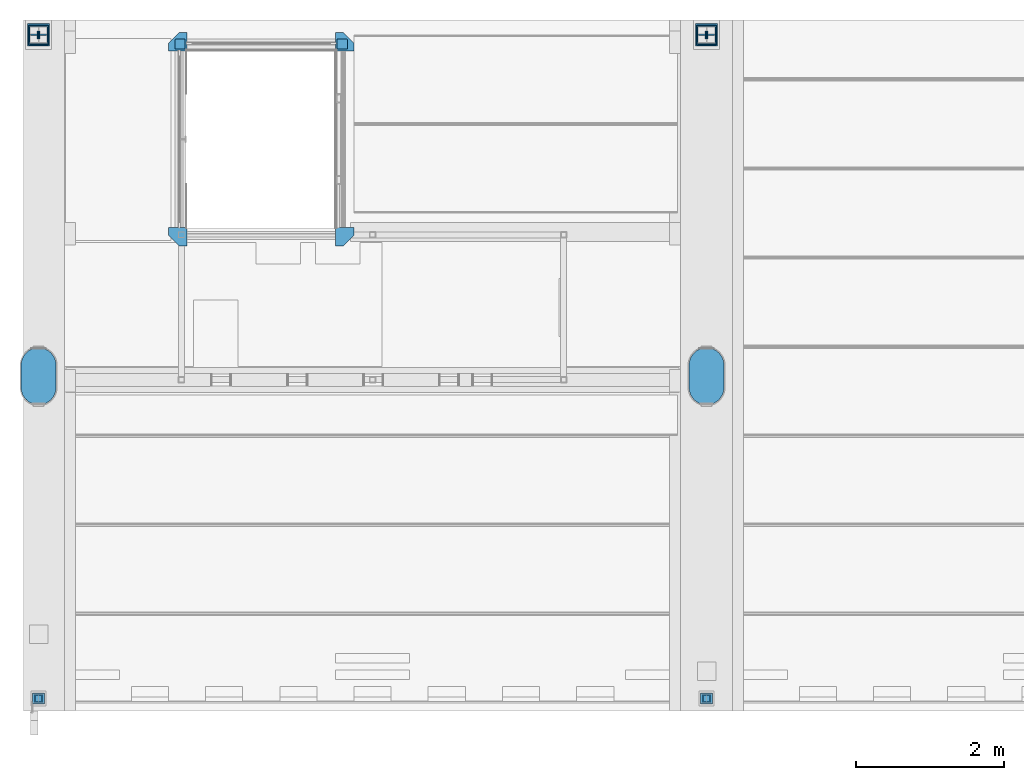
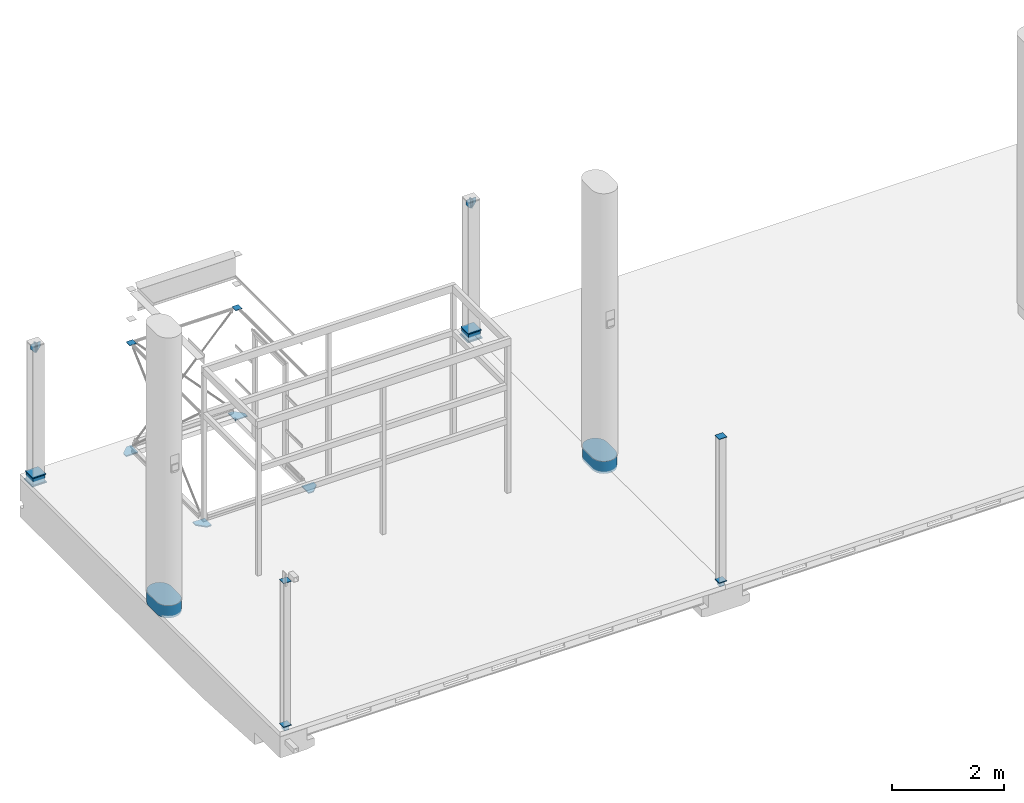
# One storey, part 4 of 15: 24 columns.
"""IFC2X3 building model written with IfcOpenShell, lengths in millimetres."""

from ifc_helpers import new_model, entity, si_unit, converted_unit, derived_unit, direction, frame, origin_with_axes, place, context, subcontext, project, spatial, faceted_brep, material, type_object, element, save


model = new_model("IFC2X3")

# Units and contexts
model_context = context("Model", 3, precision=0.01, world=frame((0.0, 4.29681676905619e-09, 0.0)), true_north=direction((4.01073788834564e-13, 1.0)))
plan_context = context("Plan", 3, precision=0.01, world=frame((0.0, 4.29681676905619e-09, 0.0)), true_north=direction((4.01073788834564e-13, 1.0)))
body_context = subcontext(model_context, "Body", "Model", "MODEL_VIEW")
ifc_project = project(units=[converted_unit("PLANEANGLEUNIT", "DEGREE", entity("IfcPositiveLengthMeasure", 0.0174532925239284), si_unit("PLANEANGLEUNIT", "RADIAN"), dimensions=[0, 0, 0, 0, 0, 0, 0]), si_unit("AREAUNIT", "SQUARE_METRE"), si_unit("LENGTHUNIT", "METRE", prefix="MILLI"), si_unit("MASSUNIT", "GRAM", prefix="KILO"), si_unit("POWERUNIT", "WATT"), si_unit("PRESSUREUNIT", "PASCAL", prefix="KILO"), si_unit("FORCEUNIT", "NEWTON", prefix="KILO"), si_unit("ELECTRICVOLTAGEUNIT", "VOLT"), si_unit("ELECTRICCURRENTUNIT", "AMPERE"), si_unit("THERMODYNAMICTEMPERATUREUNIT", "DEGREE_CELSIUS"), si_unit("TIMEUNIT", "SECOND"), si_unit("VOLUMEUNIT", "CUBIC_METRE"), derived_unit("LINEARVELOCITYUNIT", [(si_unit("LENGTHUNIT", "METRE"), 1), (si_unit("TIMEUNIT", "SECOND"), -1)]), derived_unit("VOLUMETRICFLOWRATEUNIT", [(si_unit("VOLUMEUNIT", "CUBIC_METRE"), 1), (si_unit("TIMEUNIT", "SECOND"), -1)]), derived_unit("THERMALTRANSMITTANCEUNIT", [(si_unit("POWERUNIT", "WATT"), 1), (si_unit("THERMODYNAMICTEMPERATUREUNIT", "KELVIN"), -1), (si_unit("AREAUNIT", "SQUARE_METRE"), -1)]), derived_unit("SOUNDPRESSUREUNIT", [(si_unit("PRESSUREUNIT", "PASCAL"), 1)])], contexts=[model_context, plan_context])

# Site, building, storey
site_placement = place(None, frame((0.0, -4.29681676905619e-09, 0.0), z_axis=(0.0, 0.0, 1.0), x_axis=(1.0, 0.0, 0.0)))
site = spatial("IfcSite", under=ifc_project, at=site_placement, Name="Gardermoen", CompositionType="ELEMENT")
building_placement = place(site_placement, frame((0.0, 4.29681676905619e-09, 0.0), z_axis=(0.0, 0.0, 1.0), x_axis=(1.0, 0.0, 0.0)))
building = spatial("IfcBuilding", under=site, at=building_placement, Name="TG", CompositionType="ELEMENT")
storey_placement = place(building_placement, origin_with_axes())
storey = spatial("IfcBuildingStorey", under=building, at=storey_placement, Name="F", CompositionType="ELEMENT", Elevation=0.0)

# Columns
ifc_material_1 = material(Name="STEEL/S355")
column_type_1 = type_object("IfcColumnType", Name="RHS100*5", PredefinedType="NOTDEFINED")
for number, where, z_axis, x_axis in (
    (1, (331000.0, 458358.0, 210030.0), (0.0, -1.0, 0.0), (0.0, 0.0, 1.0)),
    (2, (322000.0, 458358.0, 210030.0), (0.0, -1.0, 0.0), (0.0, 0.0, 1.0)),
):
    element("IfcColumn", number, at=place(storey_placement, frame(where, z_axis=z_axis, x_axis=x_axis)), inside=storey, type_object=column_type_1, material=ifc_material_1, Name="STÅLSØYLE", ObjectType="RHS100*5", context=body_context, shape_type="Brep", body=[
        faceted_brep([(0.0, 45.0, -45.0), (0.0, -45.0, -45.0), (100.0, -45.0, -45.0), (100.0, 45.0, -45.0), (0.0, -45.0, 45.0), (100.0, -45.0, 45.0), (0.0, 45.0, 45.0), (100.0, 45.0, 45.0), (0.0, 50.0, -50.0), (0.0, 50.0, 50.0), (100.0, 50.0, 50.0), (100.0, 50.0, -50.0), (0.0, -50.0, 50.0), (100.0, -50.0, 50.0), (0.0, -50.0, -50.0), (100.0, -50.0, -50.0)], [[[0, 1, 2, 3]], [[1, 4, 5, 2]], [[4, 6, 7, 5]], [[6, 0, 3, 7]], [[8, 9, 10, 11]], [[9, 12, 13, 10]], [[12, 14, 15, 13]], [[14, 8, 11, 15]], [[13, 15, 11, 10], [5, 7, 3, 2]], [[14, 12, 9, 8], [6, 4, 1, 0]]]),
    ])
column_type_2 = type_object("IfcColumnType", Name="PL25*250", PredefinedType="NOTDEFINED")
for number, where, z_axis, x_axis in (
    (3, (326001.862471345, 464454.830464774, 210082.50031468), (0.0, 1.0, 0.0), (0.999999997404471, 0.0, -7.20490000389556e-05)),
    (4, (323998.017060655, 464454.830464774, 210082.50031468), (0.0, 1.0, 0.0), (-0.999999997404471, 0.0, -7.20490000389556e-05)),
    (5, (326001.862471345, 467334.829535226, 210082.50031468), (0.0, -1.0, 0.0), (0.999999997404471, 0.0, -7.20490000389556e-05)),
    (6, (323998.017060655, 467334.829535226, 210082.50031468), (0.0, -1.0, 0.0), (-0.999999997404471, 0.0, -7.20490000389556e-05)),
):
    element("IfcColumn", number, at=place(storey_placement, frame(where, z_axis=z_axis, x_axis=x_axis)), inside=storey, type_object=column_type_2, material=ifc_material_1, Name="STÅLSØYLE", ObjectType="PL25*250", context=body_context, shape_type="Brep", body=[
        faceted_brep([(5.82076609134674e-11, -12.5000000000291, 1.74622982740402e-10), (3.68105247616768e-07, -12.5000000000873, 250.0), (3.68687324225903e-07, 12.5000000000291, 250.0), (5.82076609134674e-11, 12.4999999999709, -3.49245965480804e-10), (249.999969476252, -12.4999999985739, 250.0), (249.999969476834, 12.5000000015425, 250.0), (249.999981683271, -12.4999999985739, 150.0), (249.999981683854, 12.5000000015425, 150.0), (99.9999999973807, -12.4999999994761, 0.0), (99.9999999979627, 12.5000000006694, 0.0)], [[[0, 1, 2, 3]], [[1, 4, 5, 2]], [[4, 6, 7, 5]], [[6, 8, 9, 7]], [[8, 0, 3, 9]], [[5, 7, 9, 3, 2]], [[8, 6, 4, 1, 0]]]),
    ])
column_type_3 = type_object("IfcColumnType", Name="PL10*138", PredefinedType="NOTDEFINED")
for number, where, z_axis, x_axis in (
    (7, (326024.017791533, 467244.659923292, 212455.009196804), (0.0, -1.0, 0.0), (0.99999999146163, 0.0, -0.000130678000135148)),
    (8, (323975.861740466, 467244.659923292, 212455.009196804), (0.0, -1.0, 0.0), (-0.99999999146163, 0.0, -0.000130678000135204)),
):
    element("IfcColumn", number, at=place(storey_placement, frame(where, z_axis=z_axis, x_axis=x_axis)), inside=storey, type_object=column_type_3, material=ifc_material_1, Name="STÅLSØYLE", ObjectType="PL10*138", context=body_context, shape_type="Brep", body=[
        faceted_brep([(5.82076609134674e-11, -5.0, 2.91038304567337e-11), (3.68338078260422e-07, -5.00000000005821, 137.83137512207), (3.68338078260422e-07, 5.00000000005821, 137.83137512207), (5.82076609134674e-11, 5.0, 2.91038304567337e-11), (137.836563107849, -5.00000000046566, 137.83137512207), (137.836563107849, 4.99999999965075, 137.83137512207), (137.836590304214, -5.00000000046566, 15.0000033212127), (137.836590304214, 4.99999999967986, 15.0000033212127), (137.460509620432, -5.00000000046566, 11.6621887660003), (137.460509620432, 4.99999999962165, 11.6621887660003), (136.351124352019, -5.00000000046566, 8.4917460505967), (136.351124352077, 4.99999999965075, 8.4917460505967), (134.564063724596, -5.00000000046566, 5.64765445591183), (134.564063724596, 4.99999999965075, 5.64765445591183), (132.188938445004, -5.00000000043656, 3.27252865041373), (132.188938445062, 4.99999999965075, 3.27252865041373), (129.344847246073, -5.00000000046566, 1.48546739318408), (129.344847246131, 4.99999999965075, 1.48546739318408), (126.174404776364, -5.00000000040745, 0.376081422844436), (126.174404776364, 4.99999999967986, 0.376081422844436), (122.836590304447, -5.00000000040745, 0.0), (122.836590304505, 4.99999999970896, 0.0)], [[[0, 1, 2, 3]], [[1, 4, 5, 2]], [[4, 6, 7, 5]], [[6, 8, 9, 7]], [[8, 10, 11, 9]], [[10, 12, 13, 11]], [[12, 14, 15, 13]], [[14, 16, 17, 15]], [[16, 18, 19, 17]], [[18, 20, 21, 19]], [[20, 0, 3, 21]], [[5, 7, 9, 11, 13, 15, 17, 19, 21, 3, 2]], [[20, 18, 16, 14, 12, 10, 8, 6, 4, 1, 0]]]),
    ])
column_type_4 = type_object("IfcColumnType", Name="PL270*20", PredefinedType="NOTDEFINED")
for number, where, z_axis, x_axis in (
    (9, (322000.000703, 467165.004375, 210210.0), (1.0, 0.0, 0.0), (0.0, 1.0, 0.0)),
    (10, (330999.999765, 467165.004375, 210210.0), (-1.0, 0.0, 0.0), (0.0, 1.0, 0.0)),
):
    element("IfcColumn", number, at=place(storey_placement, frame(where, z_axis=z_axis, x_axis=x_axis)), inside=storey, type_object=column_type_4, material=ifc_material_1, Name="STÅLSØYLE", ObjectType="PL270*20", context=body_context, shape_type="Brep", body=[
        faceted_brep([(0.0, 10.0, -135.0), (0.0, 10.0, 135.0), (270.0, 10.0, 135.0), (270.0, 10.0, -135.0), (0.0, -10.0, 135.0), (270.0, -10.0, 135.0), (0.0, -10.0, -135.0), (270.0, -10.0, -135.0)], [[[0, 1, 2, 3]], [[1, 4, 5, 2]], [[4, 6, 7, 5]], [[6, 0, 3, 7]], [[5, 7, 3, 2]], [[6, 4, 1, 0]]]),
    ])
column_type_5 = type_object("IfcColumnType", Name="RHS250*250*10", PredefinedType="NOTDEFINED")
for number, where, z_axis, x_axis in (
    (11, (322000.000703, 467300.004375, 210050.0), (0.0, -1.0, 0.0), (0.0, 0.0, 1.0)),
    (12, (330999.999765, 467300.004375, 210050.0), (0.0, -1.0, 0.0), (0.0, 0.0, 1.0)),
):
    element("IfcColumn", number, at=place(storey_placement, frame(where, z_axis=z_axis, x_axis=x_axis)), inside=storey, type_object=column_type_5, material=ifc_material_1, Name="STÅLSØYLE", ObjectType="RHS250*250*10", context=body_context, shape_type="Brep", body=[
        faceted_brep([(0.0, 115.0, -115.0), (0.0, -115.0, -115.0), (150.0, -115.0, -115.0), (150.0, 115.0, -115.0), (0.0, -115.0, 115.0), (150.0, -115.0, 115.0), (0.0, 115.0, 115.0), (150.0, 115.0, 115.0), (0.0, 125.0, -125.0), (0.0, 125.0, 125.0), (150.0, 125.0, 125.0), (150.0, 125.0, -125.0), (0.0, -125.0, 125.0), (150.0, -125.0, 125.0), (0.0, -125.0, -125.0), (150.0, -125.0, -125.0)], [[[0, 1, 2, 3]], [[1, 4, 5, 2]], [[4, 6, 7, 5]], [[6, 0, 3, 7]], [[8, 9, 10, 11]], [[9, 12, 13, 10]], [[12, 14, 15, 13]], [[14, 8, 11, 15]], [[13, 15, 11, 10], [5, 7, 3, 2]], [[14, 12, 9, 8], [6, 4, 1, 0]]]),
    ])
column_type_6 = type_object("IfcColumnType", Name="T100", PredefinedType="NOTDEFINED")
for number, where, z_axis, x_axis in (
    (13, (322053.750703, 467300.004375, 212847.0), (-1.0, 0.0, 0.0), (0.0, 0.0, 1.0)),
    (14, (321946.250703, 467300.004375, 212847.0), (1.0, 0.0, 0.0), (0.0, 0.0, 1.0)),
    (15, (330946.249765, 467300.004375, 212847.0), (1.0, 0.0, 0.0), (0.0, 0.0, 1.0)),
    (16, (331053.749765, 467300.004375, 212847.0), (-1.0, 0.0, 0.0), (0.0, 0.0, 1.0)),
):
    element("IfcColumn", number, at=place(storey_placement, frame(where, z_axis=z_axis, x_axis=x_axis)), inside=storey, type_object=column_type_6, material=ifc_material_1, Name="STÅLSØYLE", ObjectType="T100", context=body_context, shape_type="Brep", body=[
        faceted_brep([(100.0, -5.5, -50.0), (0.0, -5.5, 25.0), (0.0, 5.5, 25.0), (100.0, 5.5, -50.0), (200.0, -50.0, 39.0), (200.0, -50.0, 50.0), (100.0, -50.0, 50.0), (100.0, -50.0, 39.0), (200.0, 50.0, 50.0), (200.0, 50.0, 39.0), (100.0, 50.0, 39.0), (100.0, 50.0, 50.0), (200.0, 5.5, 39.0), (0.0, 5.5, 39.0), (0.0, 25.0, 39.0), (0.0, 25.0, 50.0), (0.0, -25.0, 50.0), (0.0, -25.0, 39.0), (0.0, -5.5, 39.0), (200.0, -5.5, 39.0), (200.0, -5.5, -50.0), (200.0, 5.5, -50.0)], [[[0, 1, 2, 3]], [[4, 5, 6, 7]], [[8, 9, 10, 11]], [[9, 12, 13, 14, 10]], [[11, 10, 14, 15]], [[5, 8, 11, 15, 16, 6]], [[6, 16, 17, 7]], [[18, 19, 4, 7, 17]], [[9, 8, 5, 4, 19, 20, 21, 12]], [[21, 20, 0, 3]], [[13, 12, 21, 3, 2]], [[18, 17, 16, 15, 14, 13, 2, 1]], [[20, 19, 18, 1, 0]]]),
    ])
column_type_7 = type_object("IfcColumnType", Name="PL300*20", PredefinedType="NOTDEFINED")
for number, where, z_axis, x_axis in (
    (17, (330999.999765, 467150.004375, 210040.0), (-1.0, 0.0, 0.0), (0.0, 1.0, 0.0)),
    (18, (322000.000703, 467150.004375, 210040.0), (-1.0, 0.0, 0.0), (0.0, 1.0, 0.0)),
):
    element("IfcColumn", number, at=place(storey_placement, frame(where, z_axis=z_axis, x_axis=x_axis)), inside=storey, type_object=column_type_7, material=ifc_material_1, Name="STÅLSØYLE", ObjectType="PL300*20", context=body_context, shape_type="Brep", body=[
        faceted_brep([(0.0, 10.0, -150.0), (0.0, 10.0, 150.0), (300.0, 10.0, 150.0), (300.0, 10.0, -150.0), (0.0, -10.0, 150.0), (300.0, -10.0, 150.0), (0.0, -10.0, -150.0), (300.0, -10.0, -150.0)], [[[0, 1, 2, 3]], [[1, 4, 5, 2]], [[4, 6, 7, 5]], [[6, 0, 3, 7]], [[5, 7, 3, 2]], [[6, 4, 1, 0]]]),
    ])
ifc_material_2 = material(Name="CONCRETE/C45/55")
column_type_8 = type_object("IfcColumnType", Name="AAJOVAL470*770", PredefinedType="NOTDEFINED")
column_1_placement = place(storey_placement, frame((330999.999766, 462700.004375, 210080.0), z_axis=(0.0, -1.0, 0.0), x_axis=(0.0, 0.0, 1.0)))
element("IfcColumn", 19, at=column_1_placement, inside=storey, type_object=column_type_8, material=ifc_material_2, Name="PREFABSØYLE", ObjectType="AAJOVAL470*770", context=body_context, shape_type="Brep", body=[
    faceted_brep([(0.0, 235.0, 150.0), (0.0, 234.153409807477, 169.929392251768), (270.0, 234.153409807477, 169.929392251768), (270.0, 235.0, 150.0), (0.0, 231.619738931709, 189.715192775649), (270.0, 231.619738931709, 189.715192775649), (0.0, 227.417242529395, 209.2148444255), (270.0, 227.417242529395, 209.2148444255), (0.0, 221.576199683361, 228.287851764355), (270.0, 221.576199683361, 228.287851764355), (0.0, 214.138695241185, 246.796793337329), (270.0, 214.138695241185, 246.796793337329), (0.0, 205.158316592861, 264.608311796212), (270.0, 205.158316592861, 264.608311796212), (0.0, 194.699767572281, 281.594074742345), (270.0, 194.699767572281, 281.594074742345), (0.0, 182.83840226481, 297.631699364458), (270.0, 182.83840226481, 297.631699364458), (0.0, 169.659682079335, 312.6056342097), (270.0, 169.659682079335, 312.6056342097), (0.0, 155.25855999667, 326.407991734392), (270.0, 155.25855999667, 326.407991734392), (0.0, 139.738796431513, 338.939325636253), (270.0, 139.738796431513, 338.939325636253), (0.0, 123.212211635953, 350.10934736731), (270.0, 123.212211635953, 350.10934736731), (0.0, 105.797880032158, 359.837576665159), (270.0, 105.797880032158, 359.837576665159), (0.0, 87.6212722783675, 368.053921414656), (270.0, 87.6212722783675, 368.053921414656), (0.0, 68.8133512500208, 374.699182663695), (270.0, 68.8133512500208, 374.699182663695), (0.0, 49.5096284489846, 379.725481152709), (270.0, 49.5096284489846, 379.725481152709), (0.0, 29.8491876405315, 383.096602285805), (270.0, 29.8491876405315, 383.096602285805), (0.0, 9.9736827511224, 384.78825705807), (270.0, 9.9736827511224, 384.78825705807), (0.0, -9.97368275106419, 384.78825705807), (270.0, -9.97368275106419, 384.78825705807), (0.0, -29.8491876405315, 383.096602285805), (270.0, -29.8491876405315, 383.096602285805), (0.0, -49.5096284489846, 379.725481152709), (270.0, -49.5096284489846, 379.725481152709), (0.0, -68.8133512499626, 374.699182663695), (270.0, -68.8133512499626, 374.699182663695), (0.0, -87.6212722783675, 368.053921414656), (270.0, -87.6212722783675, 368.053921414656), (0.0, -105.797880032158, 359.837576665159), (270.0, -105.797880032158, 359.837576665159), (0.0, -123.212211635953, 350.10934736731), (270.0, -123.212211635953, 350.10934736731), (0.0, -139.738796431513, 338.939325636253), (270.0, -139.738796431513, 338.939325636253), (0.0, -155.25855999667, 326.407991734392), (270.0, -155.25855999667, 326.407991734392), (0.0, -169.659682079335, 312.6056342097), (270.0, -169.659682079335, 312.6056342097), (0.0, -182.83840226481, 297.631699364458), (270.0, -182.83840226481, 297.631699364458), (0.0, -194.699767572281, 281.594074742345), (270.0, -194.699767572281, 281.594074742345), (0.0, -205.158316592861, 264.608311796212), (270.0, -205.158316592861, 264.608311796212), (0.0, -214.138695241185, 246.796793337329), (270.0, -214.138695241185, 246.796793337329), (0.0, -221.576199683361, 228.287851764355), (270.0, -221.576199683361, 228.287851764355), (0.0, -227.417242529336, 209.2148444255), (270.0, -227.417242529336, 209.2148444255), (0.0, -231.619738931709, 189.715192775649), (270.0, -231.619738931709, 189.715192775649), (0.0, -234.153409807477, 169.929392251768), (270.0, -234.153409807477, 169.929392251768), (0.0, -235.0, 150.0), (270.0, -235.0, 150.0), (0.0, -235.0, -150.0), (270.0, -235.0, -150.0), (0.0, -234.153409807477, -169.929392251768), (270.0, -234.153409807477, -169.929392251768), (0.0, -231.619738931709, -189.715192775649), (270.0, -231.619738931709, -189.715192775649), (0.0, -227.417242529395, -209.2148444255), (270.0, -227.417242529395, -209.2148444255), (0.0, -221.576199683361, -228.287851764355), (270.0, -221.576199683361, -228.287851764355), (0.0, -214.138695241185, -246.796793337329), (270.0, -214.138695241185, -246.796793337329), (0.0, -205.158316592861, -264.608311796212), (270.0, -205.158316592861, -264.608311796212), (0.0, -194.699767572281, -281.594074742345), (270.0, -194.699767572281, -281.594074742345), (0.0, -182.83840226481, -297.631699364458), (270.0, -182.83840226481, -297.631699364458), (0.0, -169.659682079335, -312.6056342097), (270.0, -169.659682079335, -312.6056342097), (0.0, -155.25855999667, -326.407991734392), (270.0, -155.25855999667, -326.407991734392), (0.0, -139.738796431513, -338.939325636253), (270.0, -139.738796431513, -338.939325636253), (0.0, -123.212211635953, -350.10934736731), (270.0, -123.212211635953, -350.10934736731), (0.0, -105.797880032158, -359.837576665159), (270.0, -105.797880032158, -359.837576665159), (0.0, -87.6212722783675, -368.053921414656), (270.0, -87.6212722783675, -368.053921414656), (0.0, -68.8133512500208, -374.699182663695), (270.0, -68.8133512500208, -374.699182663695), (0.0, -49.5096284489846, -379.725481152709), (270.0, -49.5096284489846, -379.725481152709), (0.0, -29.8491876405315, -383.096602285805), (270.0, -29.8491876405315, -383.096602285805), (0.0, -9.9736827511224, -384.78825705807), (270.0, -9.9736827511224, -384.78825705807), (0.0, 9.97368275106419, -384.78825705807), (270.0, 9.97368275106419, -384.78825705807), (0.0, 29.8491876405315, -383.096602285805), (270.0, 29.8491876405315, -383.096602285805), (0.0, 49.5096284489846, -379.725481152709), (270.0, 49.5096284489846, -379.725481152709), (0.0, 68.8133512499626, -374.699182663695), (270.0, 68.8133512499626, -374.699182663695), (0.0, 87.6212722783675, -368.053921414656), (270.0, 87.6212722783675, -368.053921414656), (0.0, 105.797880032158, -359.837576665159), (270.0, 105.797880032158, -359.837576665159), (0.0, 123.212211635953, -350.10934736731), (270.0, 123.212211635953, -350.10934736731), (0.0, 139.738796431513, -338.939325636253), (270.0, 139.738796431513, -338.939325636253), (0.0, 155.25855999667, -326.407991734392), (270.0, 155.25855999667, -326.407991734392), (0.0, 169.659682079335, -312.6056342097), (270.0, 169.659682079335, -312.6056342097), (0.0, 182.83840226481, -297.631699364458), (270.0, 182.83840226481, -297.631699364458), (0.0, 194.699767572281, -281.594074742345), (270.0, 194.699767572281, -281.594074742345), (0.0, 205.158316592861, -264.608311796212), (270.0, 205.158316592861, -264.608311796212), (0.0, 214.138695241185, -246.796793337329), (270.0, 214.138695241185, -246.796793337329), (0.0, 221.576199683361, -228.287851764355), (270.0, 221.576199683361, -228.287851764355), (0.0, 227.417242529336, -209.2148444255), (270.0, 227.417242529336, -209.2148444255), (0.0, 231.619738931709, -189.715192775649), (270.0, 231.619738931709, -189.715192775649), (0.0, 234.153409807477, -169.929392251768), (270.0, 234.153409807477, -169.929392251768), (0.0, 235.0, -150.0), (270.0, 235.0, -150.0)], [[[0, 1, 2, 3]], [[1, 4, 5, 2]], [[4, 6, 7, 5]], [[6, 8, 9, 7]], [[8, 10, 11, 9]], [[10, 12, 13, 11]], [[12, 14, 15, 13]], [[14, 16, 17, 15]], [[16, 18, 19, 17]], [[18, 20, 21, 19]], [[20, 22, 23, 21]], [[22, 24, 25, 23]], [[24, 26, 27, 25]], [[26, 28, 29, 27]], [[28, 30, 31, 29]], [[30, 32, 33, 31]], [[32, 34, 35, 33]], [[34, 36, 37, 35]], [[36, 38, 39, 37]], [[38, 40, 41, 39]], [[40, 42, 43, 41]], [[42, 44, 45, 43]], [[44, 46, 47, 45]], [[46, 48, 49, 47]], [[48, 50, 51, 49]], [[50, 52, 53, 51]], [[52, 54, 55, 53]], [[54, 56, 57, 55]], [[56, 58, 59, 57]], [[58, 60, 61, 59]], [[60, 62, 63, 61]], [[62, 64, 65, 63]], [[64, 66, 67, 65]], [[66, 68, 69, 67]], [[68, 70, 71, 69]], [[70, 72, 73, 71]], [[72, 74, 75, 73]], [[74, 76, 77, 75]], [[76, 78, 79, 77]], [[78, 80, 81, 79]], [[80, 82, 83, 81]], [[82, 84, 85, 83]], [[84, 86, 87, 85]], [[86, 88, 89, 87]], [[88, 90, 91, 89]], [[90, 92, 93, 91]], [[92, 94, 95, 93]], [[94, 96, 97, 95]], [[96, 98, 99, 97]], [[98, 100, 101, 99]], [[100, 102, 103, 101]], [[102, 104, 105, 103]], [[104, 106, 107, 105]], [[106, 108, 109, 107]], [[108, 110, 111, 109]], [[110, 112, 113, 111]], [[112, 114, 115, 113]], [[114, 116, 117, 115]], [[116, 118, 119, 117]], [[118, 120, 121, 119]], [[120, 122, 123, 121]], [[122, 124, 125, 123]], [[124, 126, 127, 125]], [[126, 128, 129, 127]], [[128, 130, 131, 129]], [[130, 132, 133, 131]], [[132, 134, 135, 133]], [[134, 136, 137, 135]], [[136, 138, 139, 137]], [[138, 140, 141, 139]], [[140, 142, 143, 141]], [[142, 144, 145, 143]], [[144, 146, 147, 145]], [[146, 148, 149, 147]], [[148, 150, 151, 149]], [[150, 0, 3, 151]], [[5, 7, 9, 11, 13, 15, 17, 19, 21, 23, 25, 27, 29, 31, 33, 35, 37, 39, 41, 43, 45, 47, 49, 51, 53, 55, 57, 59, 61, 63, 65, 67, 69, 71, 73, 75, 77, 79, 81, 83, 85, 87, 89, 91, 93, 95, 97, 99, 101, 103, 105, 107, 109, 111, 113, 115, 117, 119, 121, 123, 125, 127, 129, 131, 133, 135, 137, 139, 141, 143, 145, 147, 149, 151, 3, 2]], [[150, 148, 146, 144, 142, 140, 138, 136, 134, 132, 130, 128, 126, 124, 122, 120, 118, 116, 114, 112, 110, 108, 106, 104, 102, 100, 98, 96, 94, 92, 90, 88, 86, 84, 82, 80, 78, 76, 74, 72, 70, 68, 66, 64, 62, 60, 58, 56, 54, 52, 50, 48, 46, 44, 42, 40, 38, 36, 34, 32, 30, 28, 26, 24, 22, 20, 18, 16, 14, 12, 10, 8, 6, 4, 1, 0]]]),
])
column_2_placement = place(storey_placement, frame((321999.999766, 462700.004375, 210080.0), z_axis=(0.0, -1.0, 0.0), x_axis=(0.0, 0.0, 1.0)))
element("IfcColumn", 20, at=column_2_placement, inside=storey, type_object=column_type_8, material=ifc_material_2, Name="PREFABSØYLE", ObjectType="AAJOVAL470*770", context=body_context, shape_type="Brep", body=[
    faceted_brep([(0.0, 235.0, 150.0), (0.0, 234.153409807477, 169.929392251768), (270.0, 234.153409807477, 169.929392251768), (270.0, 235.0, 150.0), (0.0, 231.619738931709, 189.715192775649), (270.0, 231.619738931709, 189.715192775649), (0.0, 227.417242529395, 209.2148444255), (270.0, 227.417242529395, 209.2148444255), (0.0, 221.576199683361, 228.287851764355), (270.0, 221.576199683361, 228.287851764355), (0.0, 214.138695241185, 246.796793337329), (270.0, 214.138695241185, 246.796793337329), (0.0, 205.158316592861, 264.608311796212), (270.0, 205.158316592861, 264.608311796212), (0.0, 194.699767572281, 281.594074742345), (270.0, 194.699767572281, 281.594074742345), (0.0, 182.83840226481, 297.631699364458), (270.0, 182.83840226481, 297.631699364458), (0.0, 169.659682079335, 312.6056342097), (270.0, 169.659682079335, 312.6056342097), (0.0, 155.25855999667, 326.407991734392), (270.0, 155.25855999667, 326.407991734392), (0.0, 139.738796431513, 338.939325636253), (270.0, 139.738796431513, 338.939325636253), (0.0, 123.212211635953, 350.10934736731), (270.0, 123.212211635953, 350.10934736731), (0.0, 105.797880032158, 359.837576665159), (270.0, 105.797880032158, 359.837576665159), (0.0, 87.6212722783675, 368.053921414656), (270.0, 87.6212722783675, 368.053921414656), (0.0, 68.8133512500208, 374.699182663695), (270.0, 68.8133512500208, 374.699182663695), (0.0, 49.5096284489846, 379.725481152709), (270.0, 49.5096284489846, 379.725481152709), (0.0, 29.8491876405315, 383.096602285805), (270.0, 29.8491876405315, 383.096602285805), (0.0, 9.9736827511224, 384.78825705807), (270.0, 9.9736827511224, 384.78825705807), (0.0, -9.97368275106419, 384.78825705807), (270.0, -9.97368275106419, 384.78825705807), (0.0, -29.8491876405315, 383.096602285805), (270.0, -29.8491876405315, 383.096602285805), (0.0, -49.5096284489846, 379.725481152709), (270.0, -49.5096284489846, 379.725481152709), (0.0, -68.8133512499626, 374.699182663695), (270.0, -68.8133512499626, 374.699182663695), (0.0, -87.6212722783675, 368.053921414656), (270.0, -87.6212722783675, 368.053921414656), (0.0, -105.797880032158, 359.837576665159), (270.0, -105.797880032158, 359.837576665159), (0.0, -123.212211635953, 350.10934736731), (270.0, -123.212211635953, 350.10934736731), (0.0, -139.738796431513, 338.939325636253), (270.0, -139.738796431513, 338.939325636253), (0.0, -155.25855999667, 326.407991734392), (270.0, -155.25855999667, 326.407991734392), (0.0, -169.659682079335, 312.6056342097), (270.0, -169.659682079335, 312.6056342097), (0.0, -182.83840226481, 297.631699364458), (270.0, -182.83840226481, 297.631699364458), (0.0, -194.699767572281, 281.594074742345), (270.0, -194.699767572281, 281.594074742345), (0.0, -205.158316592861, 264.608311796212), (270.0, -205.158316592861, 264.608311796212), (0.0, -214.138695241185, 246.796793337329), (270.0, -214.138695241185, 246.796793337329), (0.0, -221.576199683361, 228.287851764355), (270.0, -221.576199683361, 228.287851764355), (0.0, -227.417242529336, 209.2148444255), (270.0, -227.417242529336, 209.2148444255), (0.0, -231.619738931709, 189.715192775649), (270.0, -231.619738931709, 189.715192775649), (0.0, -234.153409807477, 169.929392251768), (270.0, -234.153409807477, 169.929392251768), (0.0, -235.0, 150.0), (270.0, -235.0, 150.0), (0.0, -235.0, -150.0), (270.0, -235.0, -150.0), (0.0, -234.153409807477, -169.929392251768), (270.0, -234.153409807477, -169.929392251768), (0.0, -231.619738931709, -189.715192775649), (270.0, -231.619738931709, -189.715192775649), (0.0, -227.417242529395, -209.2148444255), (270.0, -227.417242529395, -209.2148444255), (0.0, -221.576199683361, -228.287851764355), (270.0, -221.576199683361, -228.287851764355), (0.0, -214.138695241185, -246.796793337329), (270.0, -214.138695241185, -246.796793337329), (0.0, -205.158316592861, -264.608311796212), (270.0, -205.158316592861, -264.608311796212), (0.0, -194.699767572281, -281.594074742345), (270.0, -194.699767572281, -281.594074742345), (0.0, -182.83840226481, -297.631699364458), (270.0, -182.83840226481, -297.631699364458), (0.0, -169.659682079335, -312.6056342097), (270.0, -169.659682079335, -312.6056342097), (0.0, -155.25855999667, -326.407991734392), (270.0, -155.25855999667, -326.407991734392), (0.0, -139.738796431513, -338.939325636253), (270.0, -139.738796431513, -338.939325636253), (0.0, -123.212211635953, -350.10934736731), (270.0, -123.212211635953, -350.10934736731), (0.0, -105.797880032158, -359.837576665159), (270.0, -105.797880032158, -359.837576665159), (0.0, -87.6212722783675, -368.053921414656), (270.0, -87.6212722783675, -368.053921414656), (0.0, -68.8133512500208, -374.699182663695), (270.0, -68.8133512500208, -374.699182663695), (0.0, -49.5096284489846, -379.725481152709), (270.0, -49.5096284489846, -379.725481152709), (0.0, -29.8491876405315, -383.096602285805), (270.0, -29.8491876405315, -383.096602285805), (0.0, -9.9736827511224, -384.78825705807), (270.0, -9.9736827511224, -384.78825705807), (0.0, 9.97368275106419, -384.78825705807), (270.0, 9.97368275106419, -384.78825705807), (0.0, 29.8491876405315, -383.096602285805), (270.0, 29.8491876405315, -383.096602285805), (0.0, 49.5096284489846, -379.725481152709), (270.0, 49.5096284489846, -379.725481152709), (0.0, 68.8133512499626, -374.699182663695), (270.0, 68.8133512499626, -374.699182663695), (0.0, 87.6212722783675, -368.053921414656), (270.0, 87.6212722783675, -368.053921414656), (0.0, 105.797880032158, -359.837576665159), (270.0, 105.797880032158, -359.837576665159), (0.0, 123.212211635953, -350.10934736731), (270.0, 123.212211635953, -350.10934736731), (0.0, 139.738796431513, -338.939325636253), (270.0, 139.738796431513, -338.939325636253), (0.0, 155.25855999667, -326.407991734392), (270.0, 155.25855999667, -326.407991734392), (0.0, 169.659682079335, -312.6056342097), (270.0, 169.659682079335, -312.6056342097), (0.0, 182.83840226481, -297.631699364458), (270.0, 182.83840226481, -297.631699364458), (0.0, 194.699767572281, -281.594074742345), (270.0, 194.699767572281, -281.594074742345), (0.0, 205.158316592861, -264.608311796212), (270.0, 205.158316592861, -264.608311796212), (0.0, 214.138695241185, -246.796793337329), (270.0, 214.138695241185, -246.796793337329), (0.0, 221.576199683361, -228.287851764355), (270.0, 221.576199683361, -228.287851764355), (0.0, 227.417242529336, -209.2148444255), (270.0, 227.417242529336, -209.2148444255), (0.0, 231.619738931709, -189.715192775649), (270.0, 231.619738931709, -189.715192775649), (0.0, 234.153409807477, -169.929392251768), (270.0, 234.153409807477, -169.929392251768), (0.0, 235.0, -150.0), (270.0, 235.0, -150.0)], [[[0, 1, 2, 3]], [[1, 4, 5, 2]], [[4, 6, 7, 5]], [[6, 8, 9, 7]], [[8, 10, 11, 9]], [[10, 12, 13, 11]], [[12, 14, 15, 13]], [[14, 16, 17, 15]], [[16, 18, 19, 17]], [[18, 20, 21, 19]], [[20, 22, 23, 21]], [[22, 24, 25, 23]], [[24, 26, 27, 25]], [[26, 28, 29, 27]], [[28, 30, 31, 29]], [[30, 32, 33, 31]], [[32, 34, 35, 33]], [[34, 36, 37, 35]], [[36, 38, 39, 37]], [[38, 40, 41, 39]], [[40, 42, 43, 41]], [[42, 44, 45, 43]], [[44, 46, 47, 45]], [[46, 48, 49, 47]], [[48, 50, 51, 49]], [[50, 52, 53, 51]], [[52, 54, 55, 53]], [[54, 56, 57, 55]], [[56, 58, 59, 57]], [[58, 60, 61, 59]], [[60, 62, 63, 61]], [[62, 64, 65, 63]], [[64, 66, 67, 65]], [[66, 68, 69, 67]], [[68, 70, 71, 69]], [[70, 72, 73, 71]], [[72, 74, 75, 73]], [[74, 76, 77, 75]], [[76, 78, 79, 77]], [[78, 80, 81, 79]], [[80, 82, 83, 81]], [[82, 84, 85, 83]], [[84, 86, 87, 85]], [[86, 88, 89, 87]], [[88, 90, 91, 89]], [[90, 92, 93, 91]], [[92, 94, 95, 93]], [[94, 96, 97, 95]], [[96, 98, 99, 97]], [[98, 100, 101, 99]], [[100, 102, 103, 101]], [[102, 104, 105, 103]], [[104, 106, 107, 105]], [[106, 108, 109, 107]], [[108, 110, 111, 109]], [[110, 112, 113, 111]], [[112, 114, 115, 113]], [[114, 116, 117, 115]], [[116, 118, 119, 117]], [[118, 120, 121, 119]], [[120, 122, 123, 121]], [[122, 124, 125, 123]], [[124, 126, 127, 125]], [[126, 128, 129, 127]], [[128, 130, 131, 129]], [[130, 132, 133, 131]], [[132, 134, 135, 133]], [[134, 136, 137, 135]], [[136, 138, 139, 137]], [[138, 140, 141, 139]], [[140, 142, 143, 141]], [[142, 144, 145, 143]], [[144, 146, 147, 145]], [[146, 148, 149, 147]], [[148, 150, 151, 149]], [[150, 0, 3, 151]], [[5, 7, 9, 11, 13, 15, 17, 19, 21, 23, 25, 27, 29, 31, 33, 35, 37, 39, 41, 43, 45, 47, 49, 51, 53, 55, 57, 59, 61, 63, 65, 67, 69, 71, 73, 75, 77, 79, 81, 83, 85, 87, 89, 91, 93, 95, 97, 99, 101, 103, 105, 107, 109, 111, 113, 115, 117, 119, 121, 123, 125, 127, 129, 131, 133, 135, 137, 139, 141, 143, 145, 147, 149, 151, 3, 2]], [[150, 148, 146, 144, 142, 140, 138, 136, 134, 132, 130, 128, 126, 124, 122, 120, 118, 116, 114, 112, 110, 108, 106, 104, 102, 100, 98, 96, 94, 92, 90, 88, 86, 84, 82, 80, 78, 76, 74, 72, 70, 68, 66, 64, 62, 60, 58, 56, 54, 52, 50, 48, 46, 44, 42, 40, 38, 36, 34, 32, 30, 28, 26, 24, 22, 20, 18, 16, 14, 12, 10, 8, 6, 4, 1, 0]]]),
])
ifc_material_3 = material(Name="STEEL/S355J0")
column_type_9 = type_object("IfcColumnType", Name="PL10*160", PredefinedType="NOTDEFINED")
for number, where, z_axis, x_axis in (
    (21, (331000.0, 458434.5, 213278.0), (-1.0, 0.0, 0.0), (0.0, -1.0, 0.0)),
    (22, (322000.0, 458434.5, 213278.0), (-1.0, 0.0, 0.0), (0.0, -1.0, 0.0)),
):
    element("IfcColumn", number, at=place(storey_placement, frame(where, z_axis=z_axis, x_axis=x_axis)), inside=storey, type_object=column_type_9, material=ifc_material_3, Name="STÅLSØYLE", ObjectType="PL10*160", context=body_context, shape_type="Brep", body=[
        faceted_brep([(0.0, 5.0, -80.0), (0.0, 5.0, 80.0), (153.0, 5.0, 80.0), (153.0, 5.0, -80.0), (0.0, -5.0, 80.0), (153.0, -5.0, 80.0), (0.0, -5.0, -80.0), (153.0, -5.0, -80.0)], [[[0, 1, 2, 3]], [[1, 4, 5, 2]], [[4, 6, 7, 5]], [[6, 0, 3, 7]], [[5, 7, 3, 2]], [[6, 4, 1, 0]]]),
    ])
column_type_10 = type_object("IfcColumnType", Name="PL15*160", PredefinedType="NOTDEFINED")
for number, where, z_axis, x_axis in (
    (23, (331000.0, 458434.5, 210137.5), (1.0, 0.0, 0.0), (0.0, -1.0, 0.0)),
    (24, (322000.0, 458434.5, 210137.5), (1.0, 0.0, 0.0), (0.0, -1.0, 0.0)),
):
    element("IfcColumn", number, at=place(storey_placement, frame(where, z_axis=z_axis, x_axis=x_axis)), inside=storey, type_object=column_type_10, material=ifc_material_3, Name="STÅLSØYLE", ObjectType="PL15*160", context=body_context, shape_type="Brep", body=[
        faceted_brep([(0.0, 7.5, -80.0), (0.0, 7.5, 80.0), (153.0, 7.5, 80.0), (153.0, 7.5, -80.0), (0.0, -7.5, 80.0), (153.0, -7.5, 80.0), (0.0, -7.5, -80.0), (153.0, -7.5, -80.0)], [[[0, 1, 2, 3]], [[1, 4, 5, 2]], [[4, 6, 7, 5]], [[6, 0, 3, 7]], [[5, 7, 3, 2]], [[6, 4, 1, 0]]]),
    ])

save(model, "model.ifc")
